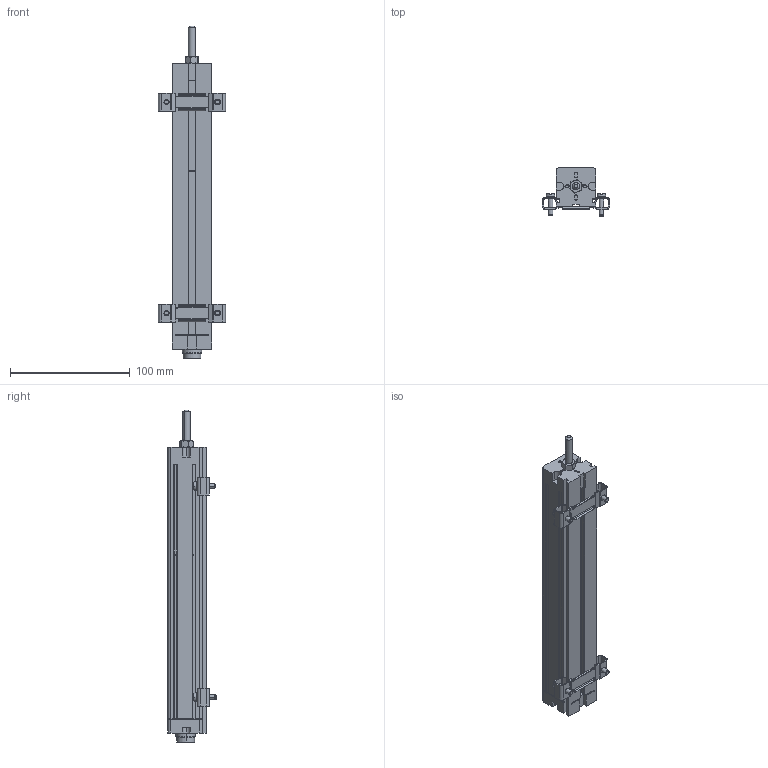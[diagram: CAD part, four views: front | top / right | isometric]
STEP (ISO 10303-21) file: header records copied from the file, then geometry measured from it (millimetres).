
FILE_DESCRIPTION(('STEP AP214'),'1');
FILE_NAME('burster_8719-5175_6x6qo72jp11enqum7p416exai.stp','2017-04-18T17:27:28',('TraceParts'),('TraceParts S.A.'),'Spatial InterOp 3D',' ',' ');
FILE_SCHEMA(('automotive_design'));
Length unit declared in the file: millimetre
Products named in the file (1): burster_8719-5175_6x6qo72jp11enqum7p416exai
Bounding box: 56 x 40.17 x 277.3 mm (x, y, z)
Volume: 241054.2 mm3; surface area: 49909.2 mm2
Topology: 1 solids, 3 shells, 672 faces, 1681 edges, 1008 vertices
Faces by surface type: plane 385, cylinder 195, cone 58, torus 12, bspline 12, sphere 10
Entity records: 25282 total; most frequent: CARTESIAN_POINT 3782, DIRECTION 3432, ORIENTED_EDGE 3342, EDGE_CURVE 1671, AXIS2_PLACEMENT_3D 1174, LINE 1084, VECTOR 1084, VERTEX_POINT 1008
